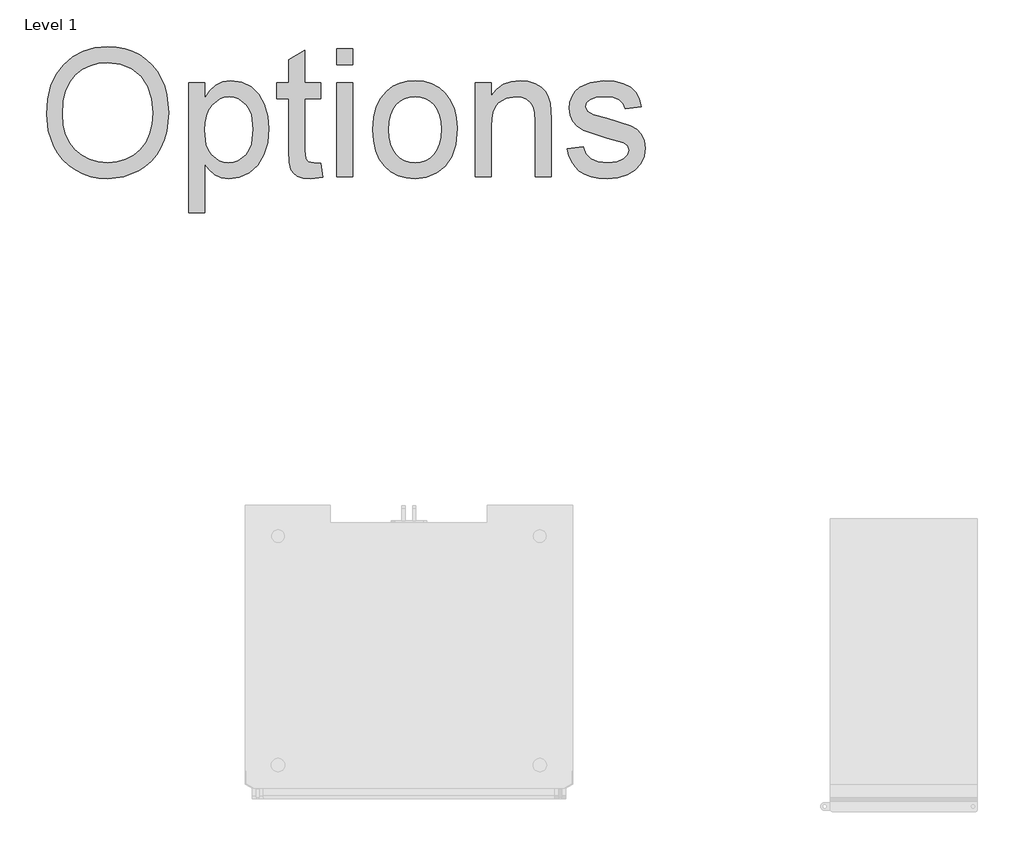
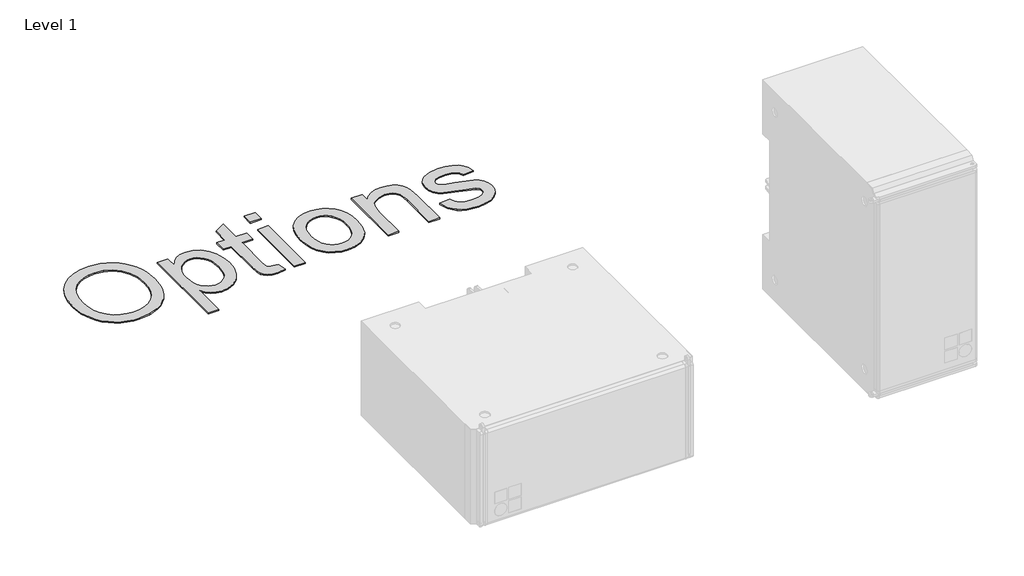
# One storey, part 52 of 52: 1 proxy.
"""IFC4 building model written with IfcOpenShell, lengths in millimetres."""

from ifc_helpers import new_model, si_unit, origin, origin_with_axes, place, context, project, spatial, polyline, outline, extrude, element, save

model = new_model("IFC4")

# Units and contexts
model_context = context("Model", 3, world=origin())
ifc_project = project(units=[si_unit("LENGTHUNIT", "METRE", prefix="MILLI")], contexts=[model_context])

# Site, building, storey
site = spatial("IfcSite", under=ifc_project)
building = spatial("IfcBuilding", under=site)
storey = spatial("IfcBuildingStorey", under=building, Name="Level 1", Elevation=0.0)

# Proxy
placement = place(None, origin())
element("IfcBuildingElementProxy", 1, Name="400mm Arial", ObjectType="400mm Arial", at=placement, inside=storey, context=model_context, shape_type="SweptSolid", body=[
    extrude(outline(polyline([(20537.738667, 17542.0194987), (20541.0025164, 17587.9704339), (20550.7940647, 17628.6489968), (20567.1133119, 17664.0551876), (20589.9602579, 17694.1890063), (20617.9659989, 17718.2494348), (20649.761631, 17735.4354552), (20685.3471542, 17745.7470674), (20724.7225685, 17749.1842715), (20751.0784516, 17747.57028), (20776.107275, 17742.7283055), (20799.8090387, 17734.6583482), (20822.1837428, 17723.3604078), (20842.6037238, 17709.1752161), (20860.4413185, 17692.4435044), (20875.6965268, 17673.1652729), (20888.3693488, 17651.3405215), (20898.328274, 17627.4654031), (20905.441792, 17602.0360707), (20911.1326064, 17546.5147639), (20905.1429047, 17490.2522165), (20897.6557776, 17464.4701971), (20887.1737996, 17440.2543472), (20873.9450472, 17418.2442857), (20858.2175969, 17399.0796313), (20839.9914487, 17382.7603841), (20819.2666026, 17369.2865442), (20773.5846661, 17351.2098396), (20724.4356367, 17345.1842715), (20697.6194672, 17346.8490738), (20672.2618678, 17351.8434807), (20648.3628384, 17360.1674923), (20625.9223791, 17371.8211086), (20605.526309, 17386.3530096), (20587.7604473, 17403.3118756), (20572.6247939, 17422.6977066), (20560.1193488, 17444.5105025), (20543.3338375, 17491.91403), (20537.738667, 17542.0194987)]), holes=[polyline([(20586.708364, 17541.541279), (20589.156251, 17509.0761393), (20596.4999123, 17480.2574249), (20608.7393476, 17455.0851356), (20625.8745571, 17433.5592715), (20646.7040138, 17416.3194514), (20670.0261907, 17404.0052942), (20695.8410877, 17396.6167999), (20724.1487049, 17394.1539684), (20752.9405195, 17396.6407108), (20779.0602816, 17404.1009381), (20802.5079911, 17416.5346502), (20823.2836481, 17433.9418472), (20840.2933249, 17455.92202), (20852.4430941, 17482.0746597), (20859.7329556, 17512.3997662), (20862.1629094, 17546.8973396), (20858.0023981, 17590.2479552), (20845.520864, 17627.7164684), (20825.0411054, 17658.3583955), (20796.8859208, 17681.2292525), (20762.9203668, 17695.468244), (20725.0095003, 17700.2145745), (20697.6852224, 17697.9280866), (20672.3336007, 17691.0686228), (20648.9546353, 17679.6361831), (20627.5483261, 17663.6307677), (20609.6808427, 17642.2812471), (20596.9183545, 17614.8164921), (20589.2608616, 17581.2365027), (20586.708364, 17541.541279)])]), origin_with_axes(), (0.0, 0.0, 1.0), 5.0),
    extrude(outline(polyline([(20972.3447276, 17241.1236654), (20972.3447276, 17639.0024533), (21021.3144246, 17639.0024533), (21021.3144246, 17590.9891957), (21037.2869625, 17614.6730262), (21055.1723791, 17631.590048), (21076.0227579, 17641.740261), (21100.8901821, 17645.1236654), (21134.0068962, 17640.3892904), (21162.9630988, 17626.1861654), (21186.5393299, 17603.3750858), (21203.5161291, 17572.8168472), (21213.7739416, 17536.7351711), (21217.1932125, 17497.353779), (21213.3315884, 17455.4736891), (21201.7467162, 17418.0171313), (21182.8092162, 17386.885029), (21156.8897087, 17363.9783055), (21126.7020903, 17349.88278), (21094.9602579, 17345.1842715), (21072.4480657, 17348.328566), (21052.3508829, 17357.7614495), (21035.1469293, 17372.000441), (21021.3144246, 17389.5630593), (21021.3144246, 17241.1236654), (20972.3447276, 17241.1236654)]), holes=[polyline([(21021.3144246, 17492.8585139), (21026.6107077, 17448.9579457), (21033.2310616, 17431.9572355), (21042.4995571, 17418.2562411), (21065.9442778, 17400.1795366), (21079.3613292, 17395.6603605), (21093.9081746, 17394.1539684), (21108.6642411, 17395.7141602), (21122.3263801, 17400.3947355), (21146.3688753, 17419.1170366), (21155.9302804, 17433.3141839), (21162.7598554, 17450.9425574), (21168.2235155, 17496.4929836), (21162.8913659, 17540.1544419), (21156.2261788, 17557.2866625), (21146.894917, 17571.2865442), (21123.4860628, 17589.9371124), (21110.221444, 17594.5997544), (21095.9166973, 17596.1539684), (21081.6567837, 17594.5011216), (21068.2397323, 17589.5425811), (21043.9342162, 17569.7084192), (21034.0380574, 17554.9882191), (21026.9693725, 17537.2731682), (21022.7281616, 17516.5632665), (21021.3144246, 17492.8585139)])]), origin_with_axes(), (0.0, 0.0, 1.0), 5.0),
    extrude(outline(polyline([(21376.3447276, 17392.1454457), (21382.4659397, 17349.8708245), (21345.8343109, 17345.1842715), (21322.3298128, 17347.2167052), (21304.8030609, 17353.3140063), (21292.4171708, 17362.7110233), (21284.3352579, 17374.6426048), (21279.8878147, 17395.1343188), (21278.4053337, 17430.2117336), (21278.4053337, 17590.0327563), (21241.6780609, 17590.0327563), (21241.6780609, 17639.0024533), (21278.4053337, 17639.0024533), (21278.4053337, 17708.918173), (21327.3750306, 17737.7069987), (21327.3750306, 17639.0024533), (21376.3447276, 17639.0024533), (21376.3447276, 17590.0327563), (21327.3750306, 17590.0327563), (21327.3750306, 17431.6463927), (21329.957417, 17406.3963927), (21338.3262617, 17397.4536843), (21355.0161291, 17394.1539684), (21376.3447276, 17392.1454457)])), origin_with_axes(), (0.0, 0.0, 1.0), 5.0),
    extrude(outline(polyline([(21425.3144246, 17351.3054836), (21425.3144246, 17639.0024533), (21474.2841215, 17639.0024533), (21474.2841215, 17351.3054836), (21425.3144246, 17351.3054836)])), origin_with_axes(), (0.0, 0.0, 1.0), 5.0),
    extrude(outline(polyline([(21425.3144246, 17694.0933624), (21425.3144246, 17743.0630593), (21474.2841215, 17743.0630593), (21474.2841215, 17694.0933624), (21425.3144246, 17694.0933624)])), origin_with_axes(), (0.0, 0.0, 1.0), 5.0),
    extrude(outline(polyline([(21535.4962428, 17495.1539684), (21538.1443843, 17532.4132606), (21546.088809, 17564.5197355), (21559.3295169, 17591.4733931), (21577.8665079, 17613.2742336), (21596.5290316, 17627.20836), (21617.128345, 17637.1613074), (21639.6644482, 17643.1330759), (21664.1373412, 17645.1236654), (21691.1537652, 17642.6996893), (21715.5818251, 17635.427761), (21737.4215209, 17623.3078806), (21756.6728526, 17606.340048), (21772.3853585, 17585.0981268), (21783.608577, 17560.1559807), (21790.3425081, 17531.5136098), (21792.5871518, 17499.1710139), (21788.6179284, 17449.6991862), (21776.7102579, 17412.0393851), (21757.2108498, 17383.8363785), (21730.4664132, 17362.7349343), (21698.7006698, 17349.5719372), (21664.1373412, 17345.1842715), (21636.726386, 17347.5992809), (21612.0711717, 17354.8443093), (21590.1716985, 17366.9193567), (21571.0279662, 17383.824423), (21555.4828372, 17405.2725764), (21544.3791736, 17430.9768851), (21537.7169755, 17460.9373491), (21535.4962428, 17495.1539684)]), holes=[polyline([(21584.4659397, 17495.2496124), (21585.8826656, 17471.4970378), (21590.1328431, 17450.9306019), (21597.2164724, 17433.5503048), (21607.1335534, 17419.3561465), (21619.1966452, 17408.3301936), (21632.7183071, 17400.4545129), (21647.6985392, 17395.7291045), (21664.1373412, 17394.1539684), (21680.4924549, 17395.7380712), (21695.4129094, 17400.4903794), (21708.8987049, 17408.4108931), (21720.9498412, 17419.4996124), (21730.8669222, 17433.8342478), (21737.9505515, 17451.4925101), (21742.200729, 17472.4743993), (21743.6174549, 17496.7799154), (21742.1917624, 17519.7792939), (21737.914685, 17539.8077326), (21730.7862226, 17556.8652314), (21720.8063753, 17570.9517904), (21708.7104059, 17581.9777433), (21695.233577, 17589.8534239), (21680.3758888, 17594.5788323), (21664.1373412, 17596.1539684), (21647.6985392, 17594.58481), (21632.7183071, 17589.8773349), (21619.1966452, 17582.031543), (21607.1335534, 17571.0474343), (21597.2164724, 17556.8951202), (21590.1328431, 17539.5447118), (21585.8826656, 17518.9962092), (21584.4659397, 17495.2496124)])]), origin_with_axes(), (0.0, 0.0, 1.0), 5.0),
    extrude(outline(polyline([(21847.6780609, 17351.3054836), (21847.6780609, 17639.0024533), (21896.6477579, 17639.0024533), (21896.6477579, 17598.8319987), (21913.6604236, 17619.0846029), (21934.0923602, 17633.5507487), (21957.9435676, 17642.2304362), (21985.2140458, 17645.1236654), (22009.352185, 17642.7923444), (22031.4578905, 17635.7983813), (22049.8932598, 17625.0145271), (22063.0203905, 17611.3135328), (22071.9272323, 17594.7312648), (22077.7017352, 17575.3035896), (22080.2841215, 17527.9598396), (22080.2841215, 17351.3054836), (22031.3144246, 17351.3054836), (22031.3144246, 17521.3604078), (22029.9036765, 17546.6821408), (22025.6714321, 17564.6871124), (22017.8644956, 17577.5870887), (22005.7296708, 17587.5938358), (21990.1755751, 17594.0139353), (21972.1108261, 17596.1539684), (21943.4295998, 17591.3478605), (21918.9806178, 17576.9295366), (21909.2099916, 17565.1593543), (21902.2309729, 17549.0732393), (21898.0435616, 17528.6711914), (21896.6477579, 17503.9532108), (21896.6477579, 17351.3054836), (21847.6780609, 17351.3054836)])), origin_with_axes(), (0.0, 0.0, 1.0), 5.0),
    extrude(outline(polyline([(22129.2538185, 17437.0024533), (22178.2235155, 17443.1236654), (22185.9467636, 17422.1776427), (22200.8911291, 17406.7789684), (22223.152256, 17397.3102184), (22252.8257882, 17394.1539684), (22282.1406556, 17397.0471976), (22302.7519246, 17405.7268851), (22314.9465268, 17418.3040631), (22319.0113943, 17432.8897639), (22314.9226159, 17445.371298), (22302.6562806, 17454.8878699), (22252.2519246, 17468.8518851), (22178.5104473, 17492.8106919), (22159.8479236, 17504.8498728), (22146.3262617, 17520.7865442), (22138.1128384, 17539.6044893), (22135.3750306, 17560.2874911), (22137.5748412, 17579.2608576), (22144.1742731, 17596.775654), (22154.5755515, 17612.1384618), (22168.1809018, 17624.6558624), (22199.3130041, 17639.1459192), (22241.4441594, 17645.1236654), (22273.3175022, 17642.7206114), (22301.0303337, 17635.5114495), (22323.3153715, 17624.2015536), (22338.9053337, 17609.496298), (22349.2348791, 17590.3077326), (22355.738667, 17565.5479078), (22306.76897, 17559.4266957), (22300.5879804, 17574.8373254), (22288.3575117, 17586.4461086), (22269.9580089, 17593.7270035), (22245.269917, 17596.1539684), (22217.1505988, 17593.8346029), (22198.4043867, 17586.8765063), (22187.8596424, 17576.8338927), (22184.3447276, 17565.260976), (22190.1790079, 17551.010029), (22208.4470003, 17540.2022639), (22250.6259776, 17529.7770745), (22322.5023981, 17506.7268851), (22341.48772, 17495.7039211), (22355.8821329, 17480.6160896), (22364.9563517, 17461.4155688), (22367.9810912, 17438.0545366), (22364.43031, 17413.9044419), (22353.7779662, 17391.1890063), (22336.4305467, 17371.6895982), (22312.7945382, 17357.1875858), (22284.2448223, 17348.1851), (22252.1562806, 17345.1842715), (22225.8003976, 17346.630886), (22202.7800969, 17350.9707298), (22183.0953786, 17358.2038027), (22166.7462428, 17368.3301048), (22153.3919577, 17381.3018141), (22142.691792, 17397.0711086), (22134.6457456, 17415.6379883), (22129.2538185, 17437.0024533)])), origin_with_axes(), (0.0, 0.0, 1.0), 5.0),
])

save(model, "model.ifc")
